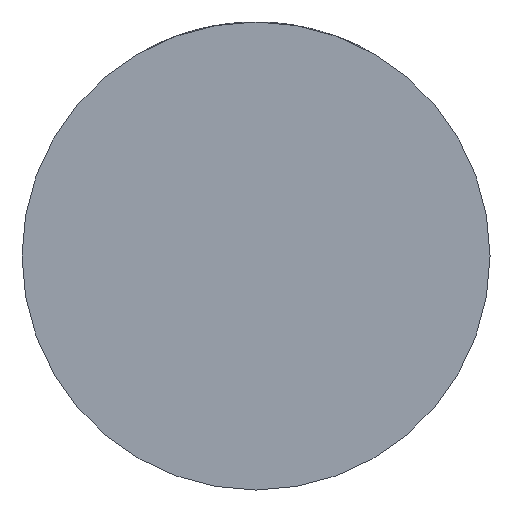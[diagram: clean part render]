
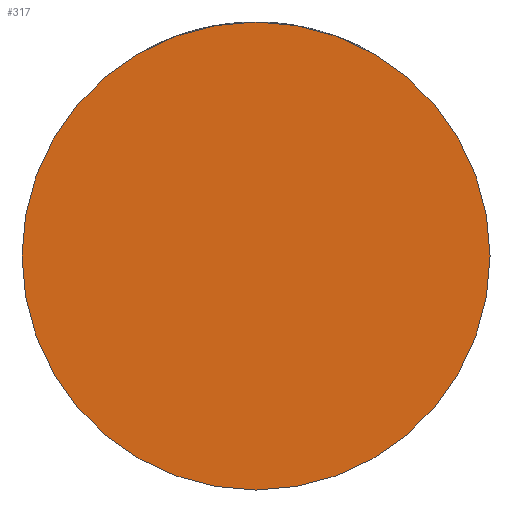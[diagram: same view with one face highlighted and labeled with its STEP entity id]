
A CAD part, front view. The second image highlights one B-rep face of the part: STEP entity #317.
In plain terms, the highlighted planar face has unit normal (0, -1, 0).
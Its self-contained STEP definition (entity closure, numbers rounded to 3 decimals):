
#28 = CARTESIAN_POINT ( 'NONE',  ( 0., -60., 0. ) ) ;
#36 = CARTESIAN_POINT ( 'NONE',  ( 0., -60., 0. ) ) ;
#48 = EDGE_CURVE ( 'NONE', #651, #3316, #650, .T. ) ;
#79 = PLANE ( 'NONE',  #1454 ) ;
#165 = AXIS2_PLACEMENT_3D ( 'NONE', #28, #2799, #4240 ) ;
#317 = ADVANCED_FACE ( 'NONE', ( #2530 ), #79, .T. ) ;
#619 = CIRCLE ( 'NONE', #165, 64. ) ;
#650 = CIRCLE ( 'NONE', #1256, 64. ) ;
#651 = VERTEX_POINT ( 'NONE', #3861 ) ;
#1104 = DIRECTION ( 'NONE',  ( 0., -1., 0. ) ) ;
#1256 = AXIS2_PLACEMENT_3D ( 'NONE', #1675, #3102, #2024 ) ;
#1454 = AXIS2_PLACEMENT_3D ( 'NONE', #36, #1104, #1899 ) ;
#1628 = ORIENTED_EDGE ( 'NONE', *, *, #2915, .T. ) ;
#1675 = CARTESIAN_POINT ( 'NONE',  ( 0., -60., 0. ) ) ;
#1794 = CARTESIAN_POINT ( 'NONE',  ( 64., -60., 0. ) ) ;
#1899 = DIRECTION ( 'NONE',  ( 1., 0., 0. ) ) ;
#2024 = DIRECTION ( 'NONE',  ( 1., 0., 0. ) ) ;
#2085 = ORIENTED_EDGE ( 'NONE', *, *, #48, .T. ) ;
#2304 = EDGE_LOOP ( 'NONE', ( #2085, #1628 ) ) ;
#2530 = FACE_OUTER_BOUND ( 'NONE', #2304, .T. ) ;
#2799 = DIRECTION ( 'NONE',  ( 0., -1., 0. ) ) ;
#2915 = EDGE_CURVE ( 'NONE', #3316, #651, #619, .T. ) ;
#3102 = DIRECTION ( 'NONE',  ( 0., -1., 0. ) ) ;
#3316 = VERTEX_POINT ( 'NONE', #1794 ) ;
#3861 = CARTESIAN_POINT ( 'NONE',  ( -64., -60., 0. ) ) ;
#4240 = DIRECTION ( 'NONE',  ( 1., 0., 0. ) ) ;
